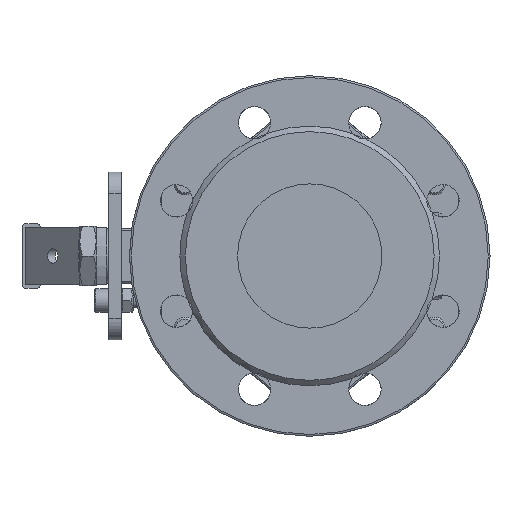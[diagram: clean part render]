
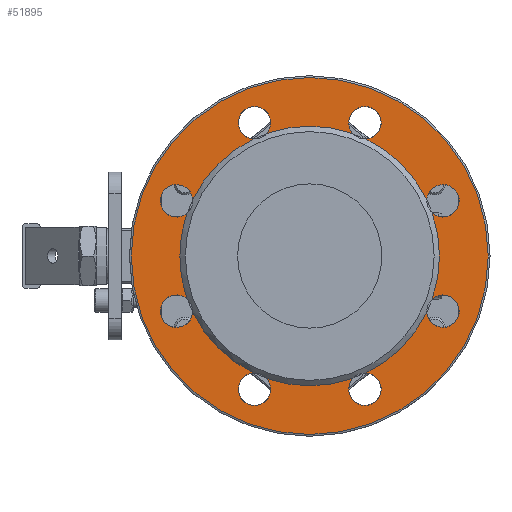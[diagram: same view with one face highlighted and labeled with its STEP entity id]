
A CAD part, left-side view. The second image highlights one B-rep face of the part: STEP entity #51895.
In plain terms, the highlighted planar face has unit normal (-1, 0, 0).
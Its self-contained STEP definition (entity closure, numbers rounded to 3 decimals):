
#51726=CARTESIAN_POINT('',(-71.5,99.,0.0));
#51727=VERTEX_POINT('',#51726);
#51728=CARTESIAN_POINT('',(-71.5,0.0,0.0));
#51729=DIRECTION('',(1.0,0.0,0.0));
#51730=DIRECTION('',(0.0,-1.0,0.0));
#51731=AXIS2_PLACEMENT_3D('',#51728,#51729,#51730);
#51732=CIRCLE('',#51731,99.);
#51733=EDGE_CURVE('',#51727,#51727,#51732,.T.);
#51741=CARTESIAN_POINT('',(-71.5,86.,0.0));
#51742=DIRECTION('',(-1.0,0.0,0.0));
#51743=DIRECTION('',(0.0,0.0,1.0));
#51744=AXIS2_PLACEMENT_3D('',#51741,#51742,#51743);
#51745=PLANE('',#51744);
#51746=ORIENTED_EDGE('',*,*,#51733,.F.);
#51747=EDGE_LOOP('',(#51746));
#51748=FACE_OUTER_BOUND('',#51747,.T.);
#51749=CARTESIAN_POINT('',(-71.5,64.925,-31.125));
#51750=VERTEX_POINT('',#51749);
#51751=CARTESIAN_POINT('',(-71.5,67.917,-23.9));
#51752=VERTEX_POINT('',#51751);
#51753=CARTESIAN_POINT('',(-71.5,73.91,-30.615));
#51754=DIRECTION('',(1.0,0.0,0.0));
#51755=DIRECTION('',(0.0,0.0,-1.0));
#51756=AXIS2_PLACEMENT_3D('',#51753,#51754,#51755);
#51757=CIRCLE('',#51756,9.0);
#51758=EDGE_CURVE('',#51750,#51752,#51757,.T.);
#51759=ORIENTED_EDGE('',*,*,#51758,.T.);
#51760=CARTESIAN_POINT('',(-71.5,67.917,23.9));
#51761=VERTEX_POINT('',#51760);
#51762=CARTESIAN_POINT('',(-71.5,0.0,0.0));
#51763=DIRECTION('',(1.0,0.0,0.0));
#51764=DIRECTION('',(0.0,1.0,0.0));
#51765=AXIS2_PLACEMENT_3D('',#51762,#51763,#51764);
#51766=CIRCLE('',#51765,72.);
#51767=EDGE_CURVE('',#51752,#51761,#51766,.T.);
#51768=ORIENTED_EDGE('',*,*,#51767,.T.);
#51769=CARTESIAN_POINT('',(-71.5,64.925,31.125));
#51770=VERTEX_POINT('',#51769);
#51771=CARTESIAN_POINT('',(-71.5,73.91,30.615));
#51772=DIRECTION('',(1.0,0.0,0.0));
#51773=DIRECTION('',(0.0,0.0,-1.0));
#51774=AXIS2_PLACEMENT_3D('',#51771,#51772,#51773);
#51775=CIRCLE('',#51774,9.0);
#51776=EDGE_CURVE('',#51761,#51770,#51775,.T.);
#51777=ORIENTED_EDGE('',*,*,#51776,.T.);
#51778=CARTESIAN_POINT('',(-71.5,31.125,64.925));
#51779=VERTEX_POINT('',#51778);
#51780=CARTESIAN_POINT('',(-71.5,0.0,0.0));
#51781=DIRECTION('',(1.0,0.0,0.0));
#51782=DIRECTION('',(0.0,1.0,0.0));
#51783=AXIS2_PLACEMENT_3D('',#51780,#51781,#51782);
#51784=CIRCLE('',#51783,72.);
#51785=EDGE_CURVE('',#51770,#51779,#51784,.T.);
#51786=ORIENTED_EDGE('',*,*,#51785,.T.);
#51787=CARTESIAN_POINT('',(-71.5,23.9,67.917));
#51788=VERTEX_POINT('',#51787);
#51789=CARTESIAN_POINT('',(-71.5,30.615,73.91));
#51790=DIRECTION('',(1.0,0.0,0.0));
#51791=DIRECTION('',(0.0,0.0,-1.0));
#51792=AXIS2_PLACEMENT_3D('',#51789,#51790,#51791);
#51793=CIRCLE('',#51792,9.0);
#51794=EDGE_CURVE('',#51779,#51788,#51793,.T.);
#51795=ORIENTED_EDGE('',*,*,#51794,.T.);
#51796=CARTESIAN_POINT('',(-71.5,-23.9,67.917));
#51797=VERTEX_POINT('',#51796);
#51798=CARTESIAN_POINT('',(-71.5,0.0,0.0));
#51799=DIRECTION('',(1.0,0.0,0.0));
#51800=DIRECTION('',(0.0,1.0,0.0));
#51801=AXIS2_PLACEMENT_3D('',#51798,#51799,#51800);
#51802=CIRCLE('',#51801,72.);
#51803=EDGE_CURVE('',#51788,#51797,#51802,.T.);
#51804=ORIENTED_EDGE('',*,*,#51803,.T.);
#51805=CARTESIAN_POINT('',(-71.5,-31.125,64.925));
#51806=VERTEX_POINT('',#51805);
#51807=CARTESIAN_POINT('',(-71.5,-30.615,73.91));
#51808=DIRECTION('',(1.0,0.0,0.0));
#51809=DIRECTION('',(0.0,0.0,-1.0));
#51810=AXIS2_PLACEMENT_3D('',#51807,#51808,#51809);
#51811=CIRCLE('',#51810,9.0);
#51812=EDGE_CURVE('',#51797,#51806,#51811,.T.);
#51813=ORIENTED_EDGE('',*,*,#51812,.T.);
#51814=CARTESIAN_POINT('',(-71.5,-64.925,31.125));
#51815=VERTEX_POINT('',#51814);
#51816=CARTESIAN_POINT('',(-71.5,0.0,0.0));
#51817=DIRECTION('',(1.0,0.0,0.0));
#51818=DIRECTION('',(0.0,1.0,0.0));
#51819=AXIS2_PLACEMENT_3D('',#51816,#51817,#51818);
#51820=CIRCLE('',#51819,72.);
#51821=EDGE_CURVE('',#51806,#51815,#51820,.T.);
#51822=ORIENTED_EDGE('',*,*,#51821,.T.);
#51823=CARTESIAN_POINT('',(-71.5,-67.917,23.9));
#51824=VERTEX_POINT('',#51823);
#51825=CARTESIAN_POINT('',(-71.5,-73.91,30.615));
#51826=DIRECTION('',(1.0,0.0,0.0));
#51827=DIRECTION('',(0.0,0.0,-1.0));
#51828=AXIS2_PLACEMENT_3D('',#51825,#51826,#51827);
#51829=CIRCLE('',#51828,9.0);
#51830=EDGE_CURVE('',#51815,#51824,#51829,.T.);
#51831=ORIENTED_EDGE('',*,*,#51830,.T.);
#51832=CARTESIAN_POINT('',(-71.5,-67.917,-23.9));
#51833=VERTEX_POINT('',#51832);
#51834=CARTESIAN_POINT('',(-71.5,0.0,0.0));
#51835=DIRECTION('',(1.0,0.0,0.0));
#51836=DIRECTION('',(0.0,1.0,0.0));
#51837=AXIS2_PLACEMENT_3D('',#51834,#51835,#51836);
#51838=CIRCLE('',#51837,72.);
#51839=EDGE_CURVE('',#51824,#51833,#51838,.T.);
#51840=ORIENTED_EDGE('',*,*,#51839,.T.);
#51841=CARTESIAN_POINT('',(-71.5,-64.925,-31.125));
#51842=VERTEX_POINT('',#51841);
#51843=CARTESIAN_POINT('',(-71.5,-73.91,-30.615));
#51844=DIRECTION('',(1.0,0.0,0.0));
#51845=DIRECTION('',(0.0,0.0,-1.0));
#51846=AXIS2_PLACEMENT_3D('',#51843,#51844,#51845);
#51847=CIRCLE('',#51846,9.0);
#51848=EDGE_CURVE('',#51833,#51842,#51847,.T.);
#51849=ORIENTED_EDGE('',*,*,#51848,.T.);
#51850=CARTESIAN_POINT('',(-71.5,-31.125,-64.925));
#51851=VERTEX_POINT('',#51850);
#51852=CARTESIAN_POINT('',(-71.5,0.0,0.0));
#51853=DIRECTION('',(1.0,0.0,0.0));
#51854=DIRECTION('',(0.0,1.0,0.0));
#51855=AXIS2_PLACEMENT_3D('',#51852,#51853,#51854);
#51856=CIRCLE('',#51855,72.);
#51857=EDGE_CURVE('',#51842,#51851,#51856,.T.);
#51858=ORIENTED_EDGE('',*,*,#51857,.T.);
#51859=CARTESIAN_POINT('',(-71.5,-23.9,-67.917));
#51860=VERTEX_POINT('',#51859);
#51861=CARTESIAN_POINT('',(-71.5,-30.615,-73.91));
#51862=DIRECTION('',(1.0,0.0,0.0));
#51863=DIRECTION('',(0.0,0.0,-1.0));
#51864=AXIS2_PLACEMENT_3D('',#51861,#51862,#51863);
#51865=CIRCLE('',#51864,9.0);
#51866=EDGE_CURVE('',#51851,#51860,#51865,.T.);
#51867=ORIENTED_EDGE('',*,*,#51866,.T.);
#51868=CARTESIAN_POINT('',(-71.5,23.9,-67.917));
#51869=VERTEX_POINT('',#51868);
#51870=CARTESIAN_POINT('',(-71.5,0.0,0.0));
#51871=DIRECTION('',(1.0,0.0,0.0));
#51872=DIRECTION('',(0.0,1.0,0.0));
#51873=AXIS2_PLACEMENT_3D('',#51870,#51871,#51872);
#51874=CIRCLE('',#51873,72.);
#51875=EDGE_CURVE('',#51860,#51869,#51874,.T.);
#51876=ORIENTED_EDGE('',*,*,#51875,.T.);
#51877=CARTESIAN_POINT('',(-71.5,31.125,-64.925));
#51878=VERTEX_POINT('',#51877);
#51879=CARTESIAN_POINT('',(-71.5,30.615,-73.91));
#51880=DIRECTION('',(1.0,0.0,0.0));
#51881=DIRECTION('',(0.0,0.0,-1.0));
#51882=AXIS2_PLACEMENT_3D('',#51879,#51880,#51881);
#51883=CIRCLE('',#51882,9.0);
#51884=EDGE_CURVE('',#51869,#51878,#51883,.T.);
#51885=ORIENTED_EDGE('',*,*,#51884,.T.);
#51886=CARTESIAN_POINT('',(-71.5,0.0,0.0));
#51887=DIRECTION('',(1.0,0.0,0.0));
#51888=DIRECTION('',(0.0,1.0,0.0));
#51889=AXIS2_PLACEMENT_3D('',#51886,#51887,#51888);
#51890=CIRCLE('',#51889,72.);
#51891=EDGE_CURVE('',#51878,#51750,#51890,.T.);
#51892=ORIENTED_EDGE('',*,*,#51891,.T.);
#51893=EDGE_LOOP('',(#51759,#51768,#51777,#51786,#51795,#51804,#51813,#51822,#51831,#51840,#51849,#51858,#51867,#51876,#51885,#51892));
#51894=FACE_BOUND('',#51893,.T.);
#51895=ADVANCED_FACE('',(#51748,#51894),#51745,.T.);
